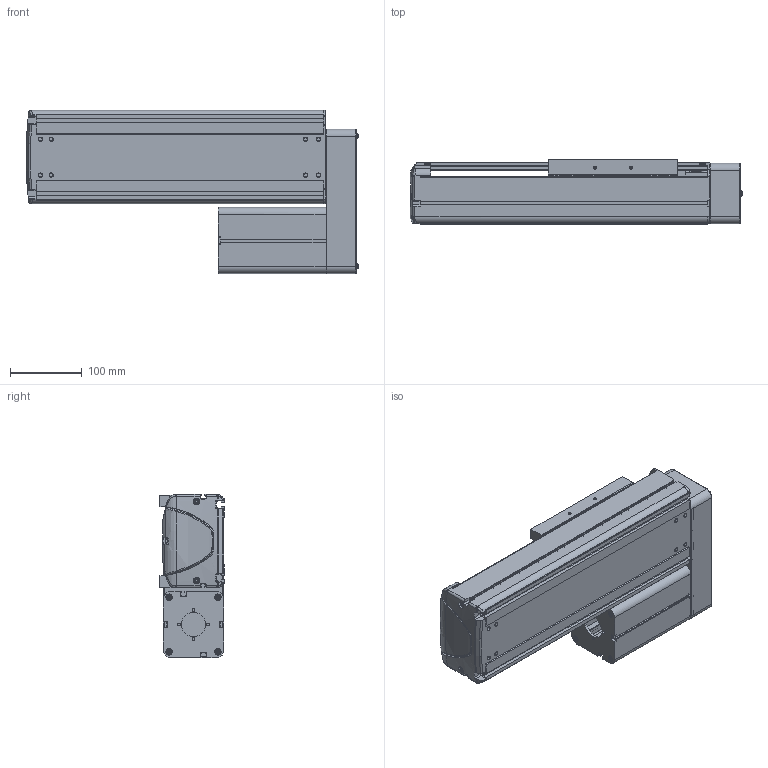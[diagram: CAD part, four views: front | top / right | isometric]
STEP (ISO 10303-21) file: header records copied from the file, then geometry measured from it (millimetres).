
FILE_DESCRIPTION((''),'2;1');
FILE_NAME('BE30E-UL-L_N-15_IGS_PRT','2017-06-17T',(' '),(''),'PRO/ENGINEER BY PARAMETRIC TECHNOLOGY CORPORATION, 2015030','PRO/ENGINEER BY PARAMETRIC TECHNOLOGY CORPORATION, 2015030','');
FILE_SCHEMA(('CONFIG_CONTROL_DESIGN'));
Products named in the file (1): BE30E-UL-L_N-15_IGS_PRT
Bounding box: 461.9 x 89.8 x 227 mm (x, y, z)
Volume: 1958373.7 mm3; surface area: 866053 mm2
Topology: 2 solids, 106 shells, 1967 faces, 5281 edges, 3426 vertices
Faces by surface type: plane 992, cylinder 781, cone 101, torus 39, bspline 30, sphere 24
Entity records: 63524 total; most frequent: CARTESIAN_POINT 13447, DIRECTION 10581, ORIENTED_EDGE 10094, EDGE_CURVE 5243, AXIS2_PLACEMENT_3D 3698, VERTEX_POINT 3426, VECTOR 3185, LINE 3185
